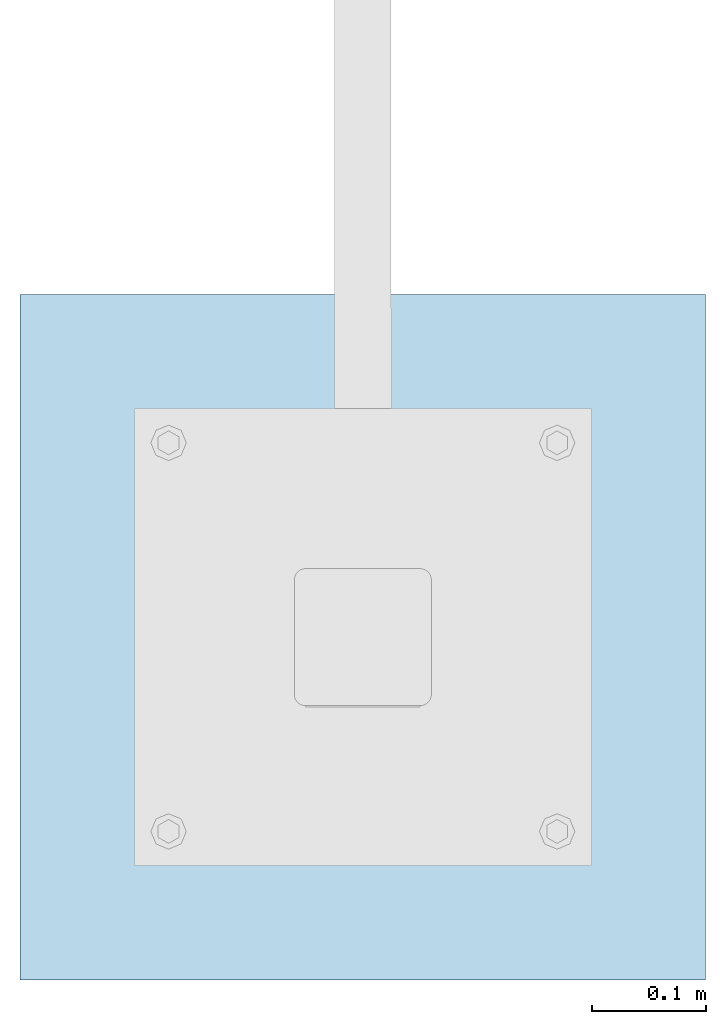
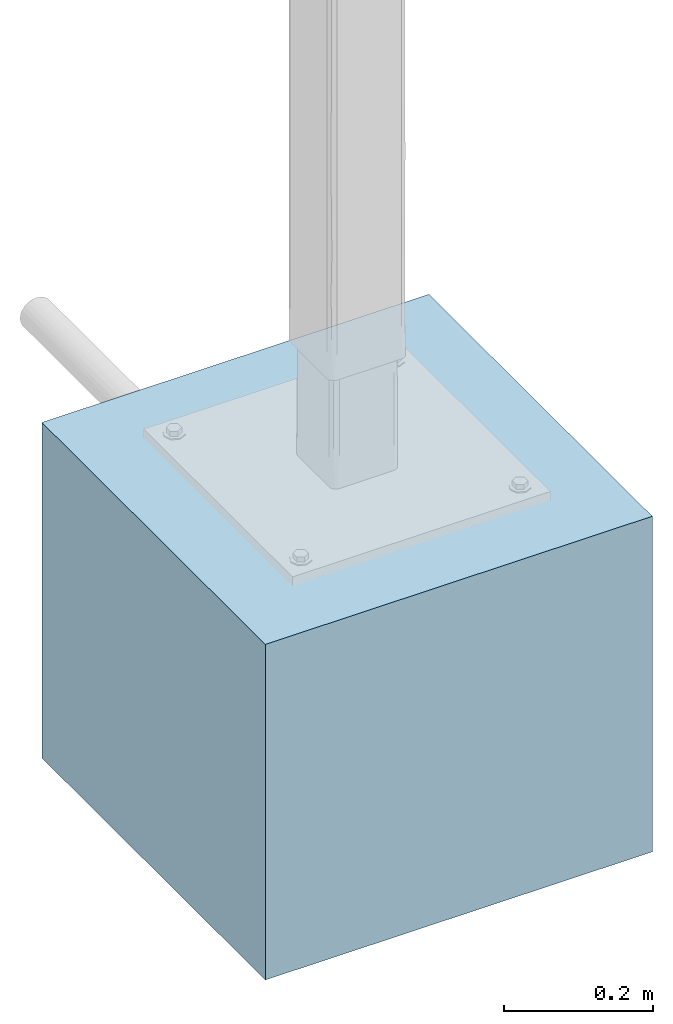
# One storey, incomplete: 1 slab.
"""IFC4 building model written with IfcOpenShell, lengths in metres."""

from ifc_helpers import new_model, entity, si_unit, converted_unit, direction, frame, origin, origin_2d_with_axis, place, context, subcontext, project, spatial, rectangle, extrude, material, type_object, element, save


model = new_model("IFC4")

# Units and contexts
model_context = context("Model", 3, precision=1e-05, world=origin(), true_north=direction((6.123031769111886e-17, 1.0)))
body_context = subcontext(model_context, "Body", "Model", "MODEL_VIEW")
ifc_project = project(units=[si_unit("LENGTHUNIT", "METRE"), converted_unit("PLANEANGLEUNIT", "DEGREE", entity("IfcPlaneAngleMeasure", 0.017453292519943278), si_unit("PLANEANGLEUNIT", "RADIAN"), dimensions=[0, 0, 0, 0, 0, 0, 0]), si_unit("AREAUNIT", "SQUARE_METRE")], contexts=[model_context])

# Site, building, storey
site_placement = place(None, origin())
site = spatial("IfcSite", under=ifc_project, at=site_placement, Name="Default", CompositionType="ELEMENT")
building_placement = place(site_placement, origin())
building = spatial("IfcBuilding", under=site, at=building_placement, CompositionType="ELEMENT")
storey_placement = place(building_placement, origin())
storey = spatial("IfcBuildingStorey", under=building, at=storey_placement, Name="Ebene 0", CompositionType="ELEMENT", Elevation=0.0)

# Slab
ifc_material = material(Name="DB_Ortbeton", Category="DB_Beton")
slab_type = type_object("IfcSlabType", Name="DB_Personenaufzug_Rufsaeule_Fundament:DB_Personenaufzug_Rufsaeule_Fundament", PredefinedType="BASESLAB", material=ifc_material)
slab_placement = place(storey_placement, origin())
element("IfcSlab", 1, at=slab_placement, inside=storey, type_object=slab_type, Name="DB_Personenaufzug_Rufsaeule_Fundament:DB_Personenaufzug_Rufsaeule_Fundament", ObjectType="DB_Personenaufzug_Rufsaeule_Fundament:DB_Personenaufzug_Rufsaeule_Fundament", PredefinedType="BASESLAB", context=body_context, shape_type="SweptSolid", body=[
    extrude(rectangle(XDim=0.5999999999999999, YDim=0.5999999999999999, at=origin_2d_with_axis()), frame((0.0, 0.0, 0.04999999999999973), z_axis=(0.0, 0.0, 1.0), x_axis=(0.0, 1.0, 0.0)), (0.0, 0.0, 1.0), 0.49999999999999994),
    extrude(rectangle(XDim=0.5999999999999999, YDim=0.5999999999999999, at=origin_2d_with_axis()), frame((0.0, 0.0, 0.0), z_axis=(0.0, 0.0, 1.0), x_axis=(-1.0, 0.0, 0.0)), (0.0, 0.0, 1.0), 0.04999999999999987),
])

save(model, "model.ifc")
